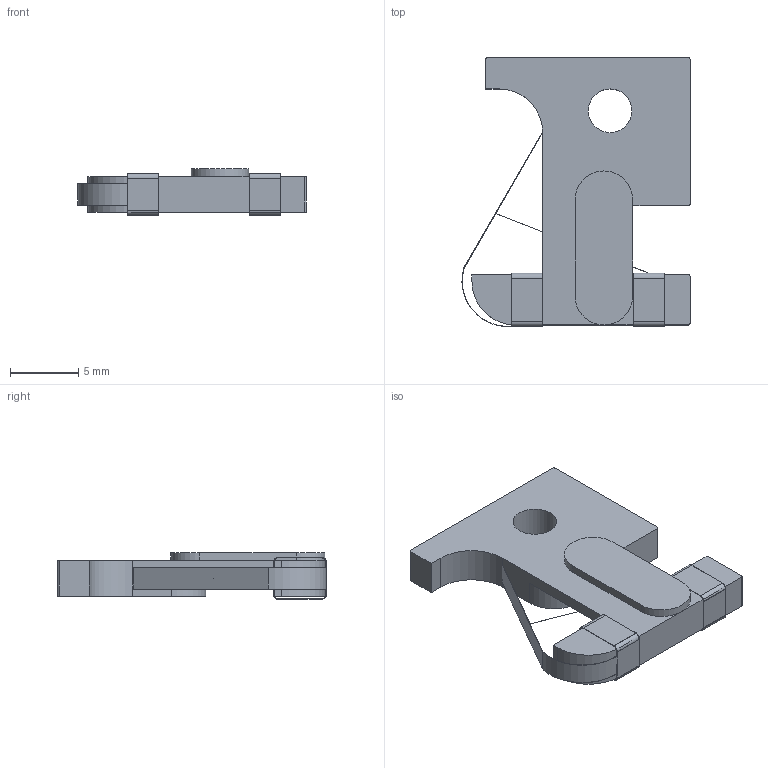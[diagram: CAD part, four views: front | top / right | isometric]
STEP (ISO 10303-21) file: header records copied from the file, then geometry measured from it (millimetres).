
FILE_DESCRIPTION(/* description */ (''),/* implementation_level */ '2;1');
FILE_NAME(/* name */ 'FPT.stp',/* time_stamp */ '2024-01-26T09:10:51-08:00',/* author */ ('RaniahC'),/* organization */ (''),/* preprocessor_version */ 'ST-DEVELOPER v19.2',/* originating_system */ 'Autodesk Inventor 2024',/* authorisation */ '');
FILE_SCHEMA (('AUTOMOTIVE_DESIGN { 1 0 10303 214 3 1 1 }'));
Length unit declared in the file: inch
Products named in the file (1): FPT
Bounding box: 16.74 x 19.73 x 3.44 mm (x, y, z)
Volume: 519.8 mm3; surface area: 872.1 mm2
Topology: 4 solids, 4 shells, 220 faces, 594 edges, 395 vertices
Faces by surface type: plane 122, bspline 67, cylinder 31
Full cylindrical faces by diameter (mm): 3.2 x1
Entity records: 7449 total; most frequent: CARTESIAN_POINT 2239, ORIENTED_EDGE 1188, DIRECTION 831, EDGE_CURVE 594, LINE 397, VECTOR 397, VERTEX_POINT 395, EDGE_LOOP 239
